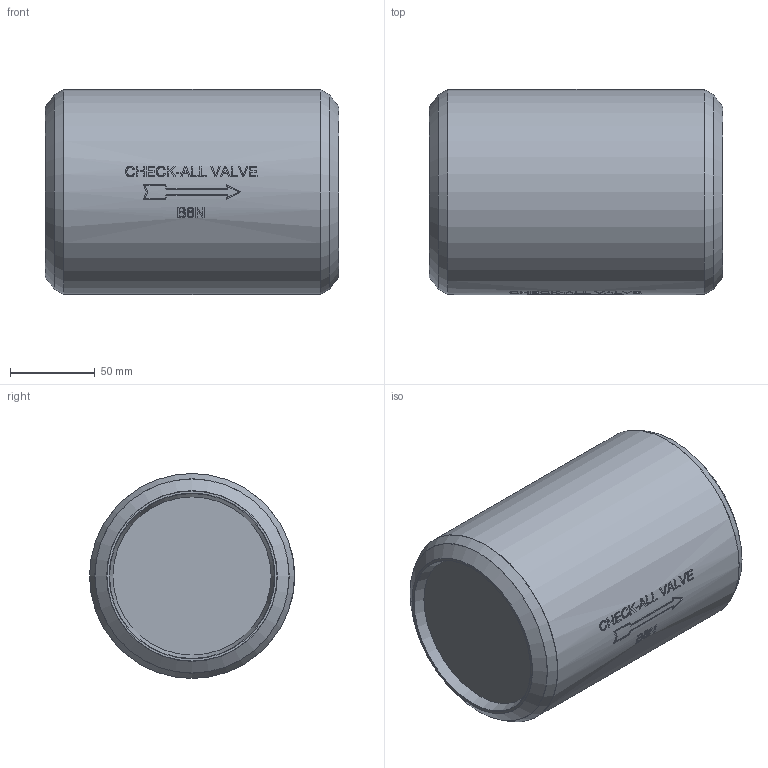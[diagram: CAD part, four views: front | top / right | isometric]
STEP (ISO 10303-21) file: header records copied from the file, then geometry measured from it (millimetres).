
FILE_DESCRIPTION(/* description */ ('Unknown'),/* implementation_level */ '2;1');
FILE_NAME(/* name */ 'B8N',/* time_stamp */ '2017-01-18T10:29:15-06:00',/* author */ ('Unknown'),/* organization */ ('Unknown'),/* preprocessor_version */ 'ST-DEVELOPER v16.7',/* originating_system */ 'DEX',/* authorisation */ $);
FILE_SCHEMA (('AUTOMOTIVE_DESIGN {1 0 10303 214 3 1 1}'));
Length unit declared in the file: millimetre
Products named in the file (1): B8N
Bounding box: 172.73 x 120.65 x 120.65 mm (x, y, z)
Volume: 1850260.2 mm3; surface area: 87009.5 mm2
Topology: 1 solids, 1 shells, 203 faces, 515 edges, 341 vertices
Faces by surface type: plane 108, bspline 55, cylinder 27, torus 8, cone 5
Full cylindrical faces by diameter (mm): 97.18 x1, 120.65 x1
Entity records: 12085 total; most frequent: CARTESIAN_POINT 6129, ORIENTED_EDGE 986, DIRECTION 776, EDGE_CURVE 493, VERTEX_POINT 336, LINE 270, VECTOR 270, AXIS2_PLACEMENT_3D 253
